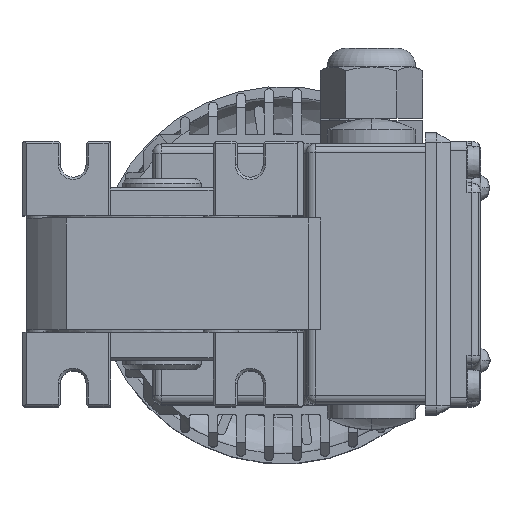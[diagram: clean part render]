
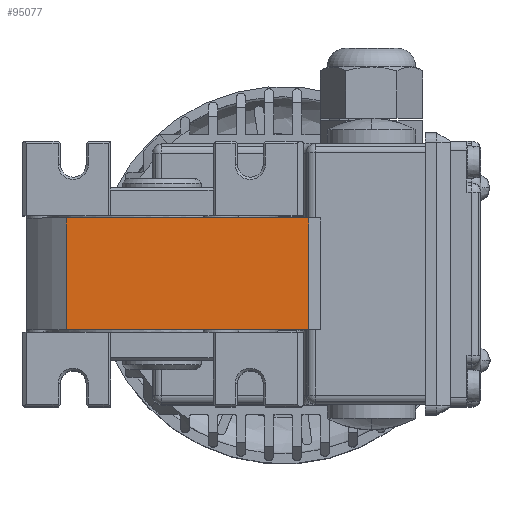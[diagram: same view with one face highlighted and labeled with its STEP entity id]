
A CAD part, top view. The second image highlights one B-rep face of the part: STEP entity #95077.
In plain terms, the highlighted planar face has unit normal (0, 0, 1).
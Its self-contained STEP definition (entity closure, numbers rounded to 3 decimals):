
#92412=CARTESIAN_POINT('',(-55.802,40.891,264.156));
#92413=VERTEX_POINT('',#92412);
#92420=CARTESIAN_POINT('',(-107.778,40.891,264.156));
#92421=VERTEX_POINT('',#92420);
#92422=CARTESIAN_POINT('',(-107.778,40.891,264.156));
#92423=DIRECTION('',(1.0,0.0,0.0));
#92424=VECTOR('',#92423,51.976);
#92425=LINE('',#92422,#92424);
#92426=EDGE_CURVE('',#92421,#92413,#92425,.T.);
#94564=CARTESIAN_POINT('',(-107.778,64.891,264.156));
#94565=VERTEX_POINT('',#94564);
#94573=CARTESIAN_POINT('',(-55.802,64.891,264.156));
#94574=VERTEX_POINT('',#94573);
#94575=CARTESIAN_POINT('',(-55.802,64.891,264.156));
#94576=DIRECTION('',(-1.0,0.0,0.0));
#94577=VECTOR('',#94576,51.976);
#94578=LINE('',#94575,#94577);
#94579=EDGE_CURVE('',#94574,#94565,#94578,.T.);
#95050=CARTESIAN_POINT('',(-55.802,40.891,264.156));
#95051=DIRECTION('',(0.0,1.0,0.0));
#95052=VECTOR('',#95051,24.);
#95053=LINE('',#95050,#95052);
#95054=EDGE_CURVE('',#92413,#94574,#95053,.T.);
#95061=CARTESIAN_POINT('',(-31.302,52.891,264.156));
#95062=DIRECTION('',(0.0,0.0,-1.0));
#95063=DIRECTION('',(0.0,1.0,0.0));
#95064=AXIS2_PLACEMENT_3D('',#95061,#95062,#95063);
#95065=PLANE('',#95064);
#95066=ORIENTED_EDGE('',*,*,#95054,.T.);
#95067=ORIENTED_EDGE('',*,*,#94579,.T.);
#95068=CARTESIAN_POINT('',(-107.778,40.891,264.156));
#95069=DIRECTION('',(0.0,1.0,0.0));
#95070=VECTOR('',#95069,24.);
#95071=LINE('',#95068,#95070);
#95072=EDGE_CURVE('',#92421,#94565,#95071,.T.);
#95073=ORIENTED_EDGE('',*,*,#95072,.F.);
#95074=ORIENTED_EDGE('',*,*,#92426,.T.);
#95075=EDGE_LOOP('',(#95066,#95067,#95073,#95074));
#95076=FACE_OUTER_BOUND('',#95075,.T.);
#95077=ADVANCED_FACE('',(#95076),#95065,.F.);
